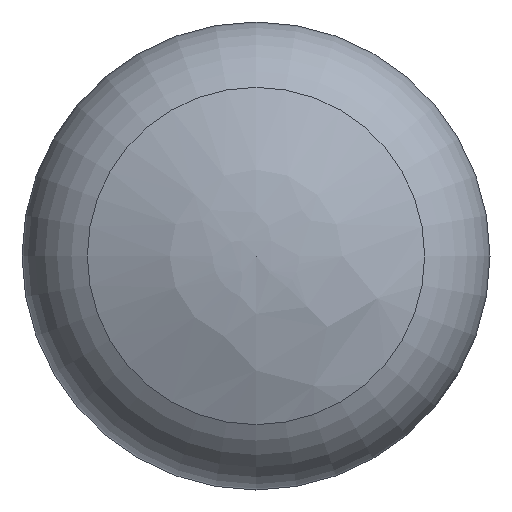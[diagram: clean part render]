
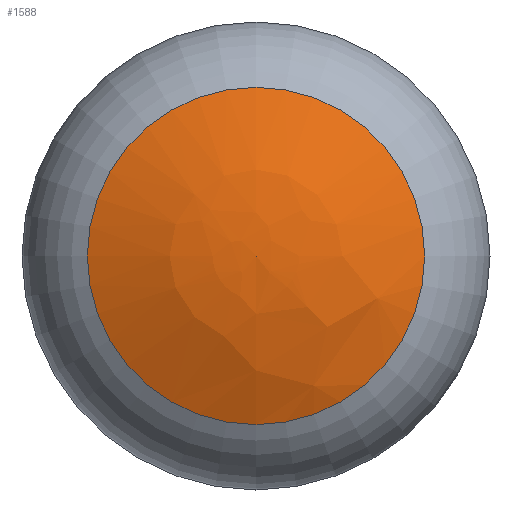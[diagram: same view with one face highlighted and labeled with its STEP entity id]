
A CAD part, front view. The second image highlights one B-rep face of the part: STEP entity #1588.
In plain terms, the highlighted free-form (B-spline) face has degree [2, 2] with [3, 9] control points.
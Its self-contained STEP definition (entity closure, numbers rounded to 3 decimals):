
#67=(
BOUNDED_SURFACE()
B_SPLINE_SURFACE(2,2,((#2513,#2514,#2515,#2516,#2517,#2518,#2519,#2520,
#2521),(#2522,#2523,#2524,#2525,#2526,#2527,#2528,#2529,#2530),(#2531,#2532,
#2533,#2534,#2535,#2536,#2537,#2538,#2539)),.UNSPECIFIED.,.F.,.T.,.F.)
B_SPLINE_SURFACE_WITH_KNOTS((3,3),(3,2,2,2,3),(-1.577,-1.124),
(-3.142,-1.571,0.,1.571,3.142),
 .UNSPECIFIED.)
GEOMETRIC_REPRESENTATION_ITEM()
RATIONAL_B_SPLINE_SURFACE(((1.,0.707,1.,0.707,1.,
0.707,1.,0.707,1.),(0.974,0.689,
0.974,0.689,0.974,0.689,0.974,
0.689,0.974),(1.,0.707,1.,0.707,
1.,0.707,1.,0.707,1.)))
REPRESENTATION_ITEM('')
SURFACE()
);
#183=FACE_OUTER_BOUND('',#263,.T.);
#263=EDGE_LOOP('',(#1137,#1138,#1139));
#368=CIRCLE('',#1729,21.728);
#369=CIRCLE('',#1730,49.569);
#637=VERTEX_POINT('',#2540);
#638=VERTEX_POINT('',#2542);
#826=EDGE_CURVE('',#637,#637,#368,.T.);
#827=EDGE_CURVE('',#637,#638,#369,.T.);
#1137=ORIENTED_EDGE('',*,*,#826,.F.);
#1138=ORIENTED_EDGE('',*,*,#827,.T.);
#1139=ORIENTED_EDGE('',*,*,#827,.F.);
#1588=ADVANCED_FACE('',(#183),#67,.F.);
#1729=AXIS2_PLACEMENT_3D('',#2541,#1987,#1988);
#1730=AXIS2_PLACEMENT_3D('',#2543,#1989,#1990);
#1987=DIRECTION('center_axis',(0.,1.,0.));
#1988=DIRECTION('ref_axis',(1.,0.,0.));
#1989=DIRECTION('center_axis',(-1.,0.,0.));
#1990=DIRECTION('ref_axis',(0.,0.,-1.));
#2513=CARTESIAN_POINT('Ctrl Pts',(0.,0.001,0.));
#2514=CARTESIAN_POINT('Ctrl Pts',(0.,0.001,
0.));
#2515=CARTESIAN_POINT('Ctrl Pts',(0.,0.001,
0.));
#2516=CARTESIAN_POINT('Ctrl Pts',(0.,0.001,
0.));
#2517=CARTESIAN_POINT('Ctrl Pts',(0.,0.001,0.));
#2518=CARTESIAN_POINT('Ctrl Pts',(0.,0.001,
0.));
#2519=CARTESIAN_POINT('Ctrl Pts',(0.,0.001,
0.));
#2520=CARTESIAN_POINT('Ctrl Pts',(0.,0.001,
0.));
#2521=CARTESIAN_POINT('Ctrl Pts',(0.,0.001,0.));
#2522=CARTESIAN_POINT('Ctrl Pts',(0.,-0.074,-11.424));
#2523=CARTESIAN_POINT('Ctrl Pts',(-11.424,-0.074,
-11.424));
#2524=CARTESIAN_POINT('Ctrl Pts',(-11.424,-0.074,
0.));
#2525=CARTESIAN_POINT('Ctrl Pts',(-11.424,-0.074,
11.424));
#2526=CARTESIAN_POINT('Ctrl Pts',(0.,-0.074,11.424));
#2527=CARTESIAN_POINT('Ctrl Pts',(11.424,-0.074,
11.424));
#2528=CARTESIAN_POINT('Ctrl Pts',(11.424,-0.074,
0.));
#2529=CARTESIAN_POINT('Ctrl Pts',(11.424,-0.074,
-11.424));
#2530=CARTESIAN_POINT('Ctrl Pts',(0.,-0.074,-11.424));
#2531=CARTESIAN_POINT('Ctrl Pts',(0.,4.859,-21.728));
#2532=CARTESIAN_POINT('Ctrl Pts',(-21.728,4.859,-21.728));
#2533=CARTESIAN_POINT('Ctrl Pts',(-21.728,4.859,0.));
#2534=CARTESIAN_POINT('Ctrl Pts',(-21.728,4.859,21.728));
#2535=CARTESIAN_POINT('Ctrl Pts',(0.,4.859,21.728));
#2536=CARTESIAN_POINT('Ctrl Pts',(21.728,4.859,21.728));
#2537=CARTESIAN_POINT('Ctrl Pts',(21.728,4.859,0.));
#2538=CARTESIAN_POINT('Ctrl Pts',(21.728,4.859,-21.728));
#2539=CARTESIAN_POINT('Ctrl Pts',(0.,4.859,-21.728));
#2540=CARTESIAN_POINT('',(0.,4.859,-21.728));
#2541=CARTESIAN_POINT('Origin',(0.,4.859,0.));
#2542=CARTESIAN_POINT('',(0.,0.001,0.));
#2543=CARTESIAN_POINT('Origin',(0.,49.568,
-0.325));
